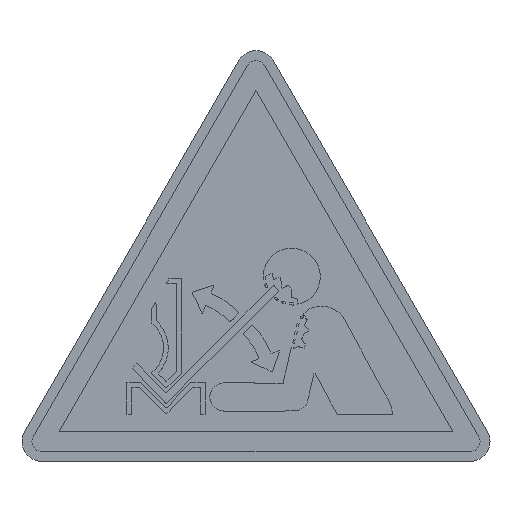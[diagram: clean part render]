
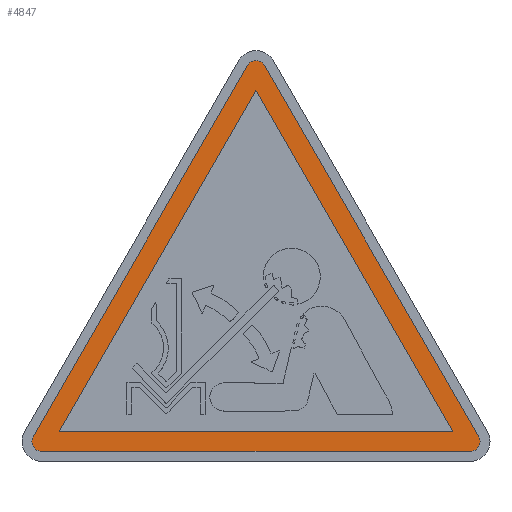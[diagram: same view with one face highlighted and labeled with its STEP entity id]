
A CAD part, top view. The second image highlights one B-rep face of the part: STEP entity #4847.
In plain terms, the highlighted planar face has unit normal (0, 0, 1).
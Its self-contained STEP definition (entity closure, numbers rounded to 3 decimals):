
#318 = CARTESIAN_POINT ( 'NONE',  ( 19.804, 3., 0.22 ) ) ;
#478 = CARTESIAN_POINT ( 'NONE',  ( -22.402, 2.5, 0.22 ) ) ;
#537 = CARTESIAN_POINT ( 'NONE',  ( -19.804, 3., 0.22 ) ) ;
#705 = CARTESIAN_POINT ( 'NONE',  ( 21.536, 2., 0.22 ) ) ;
#850 = CARTESIAN_POINT ( 'NONE',  ( -21.536, 2., 0.22 ) ) ;
#918 = VERTEX_POINT ( 'NONE', #11355 ) ;
#987 = VECTOR ( 'NONE', #10837, 1000. ) ;
#1169 = EDGE_CURVE ( 'NONE', #6946, #8698, #8161, .T. ) ;
#1250 = DIRECTION ( 'NONE',  ( -0.5, -0.866, 0. ) ) ;
#1383 = VERTEX_POINT ( 'NONE', #12064 ) ;
#1417 = ORIENTED_EDGE ( 'NONE', *, *, #8048, .F. ) ;
#1430 = CARTESIAN_POINT ( 'NONE',  ( 0., 37.301, 0.22 ) ) ;
#2226 = DIRECTION ( 'NONE',  ( 1., 0., 0. ) ) ;
#2276 = ORIENTED_EDGE ( 'NONE', *, *, #11160, .T. ) ;
#2438 = CARTESIAN_POINT ( 'NONE',  ( -21.536, 1., 0.22 ) ) ;
#2729 = DIRECTION ( 'NONE',  ( 0., 0., 1. ) ) ;
#2773 = DIRECTION ( 'NONE',  ( 0., 0., 1. ) ) ;
#2819 = CARTESIAN_POINT ( 'NONE',  ( 0., 37.301, 0.22 ) ) ;
#2852 = EDGE_CURVE ( 'NONE', #7136, #5342, #6241, .T. ) ;
#3149 = EDGE_CURVE ( 'NONE', #918, #1383, #5435, .T. ) ;
#3250 = CARTESIAN_POINT ( 'NONE',  ( -0.866, 39.801, 0.22 ) ) ;
#3704 = DIRECTION ( 'NONE',  ( 1., 0., 0. ) ) ;
#3762 = FACE_OUTER_BOUND ( 'NONE', #8424, .T. ) ;
#3898 = EDGE_LOOP ( 'NONE', ( #12694, #1417, #9690 ) ) ;
#4079 = AXIS2_PLACEMENT_3D ( 'NONE', #850, #5835, #12619 ) ;
#4353 = EDGE_CURVE ( 'NONE', #7277, #6946, #6008, .T. ) ;
#4355 = DIRECTION ( 'NONE',  ( -0.5, -0.866, 0. ) ) ;
#4745 = ORIENTED_EDGE ( 'NONE', *, *, #2852, .T. ) ;
#4847 = ADVANCED_FACE ( 'NONE', ( #3762, #5541 ), #6571, .T. ) ;
#4888 = AXIS2_PLACEMENT_3D ( 'NONE', #5600, #2729, #3704 ) ;
#5126 = EDGE_CURVE ( 'NONE', #5342, #918, #6518, .T. ) ;
#5340 = ORIENTED_EDGE ( 'NONE', *, *, #5126, .T. ) ;
#5342 = VERTEX_POINT ( 'NONE', #478 ) ;
#5435 = LINE ( 'NONE', #2438, #6090 ) ;
#5541 = FACE_BOUND ( 'NONE', #3898, .T. ) ;
#5600 = CARTESIAN_POINT ( 'NONE',  ( 0., 39.301, 0.22 ) ) ;
#5809 = CIRCLE ( 'NONE', #10150, 1. ) ;
#5835 = DIRECTION ( 'NONE',  ( 0., 0., 1. ) ) ;
#5915 = ORIENTED_EDGE ( 'NONE', *, *, #3149, .T. ) ;
#6008 = LINE ( 'NONE', #9963, #9183 ) ;
#6090 = VECTOR ( 'NONE', #7994, 1000. ) ;
#6130 = DIRECTION ( 'NONE',  ( 0., 0., 1. ) ) ;
#6145 = DIRECTION ( 'NONE',  ( 1., 0., 0. ) ) ;
#6241 = LINE ( 'NONE', #3250, #10640 ) ;
#6310 = LINE ( 'NONE', #1430, #12415 ) ;
#6487 = EDGE_CURVE ( 'NONE', #12576, #7136, #5809, .T. ) ;
#6518 = CIRCLE ( 'NONE', #4079, 1. ) ;
#6571 = PLANE ( 'NONE',  #4888 ) ;
#6946 = VERTEX_POINT ( 'NONE', #318 ) ;
#7031 = CARTESIAN_POINT ( 'NONE',  ( 0., 39.301, 0.22 ) ) ;
#7136 = VERTEX_POINT ( 'NONE', #9704 ) ;
#7277 = VERTEX_POINT ( 'NONE', #537 ) ;
#7618 = ORIENTED_EDGE ( 'NONE', *, *, #6487, .T. ) ;
#7986 = LINE ( 'NONE', #12752, #987 ) ;
#7994 = DIRECTION ( 'NONE',  ( 1., 0., 0. ) ) ;
#8048 = EDGE_CURVE ( 'NONE', #8698, #7277, #6310, .T. ) ;
#8106 = DIRECTION ( 'NONE',  ( -0.5, 0.866, 0. ) ) ;
#8161 = LINE ( 'NONE', #11338, #9002 ) ;
#8424 = EDGE_LOOP ( 'NONE', ( #7618, #4745, #5340, #5915, #2276, #8545 ) ) ;
#8545 = ORIENTED_EDGE ( 'NONE', *, *, #9220, .T. ) ;
#8634 = DIRECTION ( 'NONE',  ( 1., 0., 0. ) ) ;
#8698 = VERTEX_POINT ( 'NONE', #2819 ) ;
#9002 = VECTOR ( 'NONE', #8106, 1000. ) ;
#9183 = VECTOR ( 'NONE', #6145, 1000. ) ;
#9220 = EDGE_CURVE ( 'NONE', #9541, #12576, #7986, .T. ) ;
#9541 = VERTEX_POINT ( 'NONE', #12313 ) ;
#9690 = ORIENTED_EDGE ( 'NONE', *, *, #1169, .F. ) ;
#9704 = CARTESIAN_POINT ( 'NONE',  ( -0.866, 39.801, 0.22 ) ) ;
#9963 = CARTESIAN_POINT ( 'NONE',  ( -19.804, 3., 0.22 ) ) ;
#10150 = AXIS2_PLACEMENT_3D ( 'NONE', #7031, #6130, #2226 ) ;
#10640 = VECTOR ( 'NONE', #1250, 1000. ) ;
#10714 = CIRCLE ( 'NONE', #12337, 1. ) ;
#10837 = DIRECTION ( 'NONE',  ( -0.5, 0.866, 0. ) ) ;
#11160 = EDGE_CURVE ( 'NONE', #1383, #9541, #10714, .T. ) ;
#11338 = CARTESIAN_POINT ( 'NONE',  ( 19.804, 3., 0.22 ) ) ;
#11340 = CARTESIAN_POINT ( 'NONE',  ( 0.866, 39.801, 0.22 ) ) ;
#11355 = CARTESIAN_POINT ( 'NONE',  ( -21.536, 1., 0.22 ) ) ;
#12064 = CARTESIAN_POINT ( 'NONE',  ( 21.536, 1., 0.22 ) ) ;
#12313 = CARTESIAN_POINT ( 'NONE',  ( 22.402, 2.5, 0.22 ) ) ;
#12337 = AXIS2_PLACEMENT_3D ( 'NONE', #705, #2773, #8634 ) ;
#12415 = VECTOR ( 'NONE', #4355, 1000. ) ;
#12576 = VERTEX_POINT ( 'NONE', #11340 ) ;
#12619 = DIRECTION ( 'NONE',  ( 1., 0., 0. ) ) ;
#12694 = ORIENTED_EDGE ( 'NONE', *, *, #4353, .F. ) ;
#12752 = CARTESIAN_POINT ( 'NONE',  ( 22.402, 2.5, 0.22 ) ) ;
